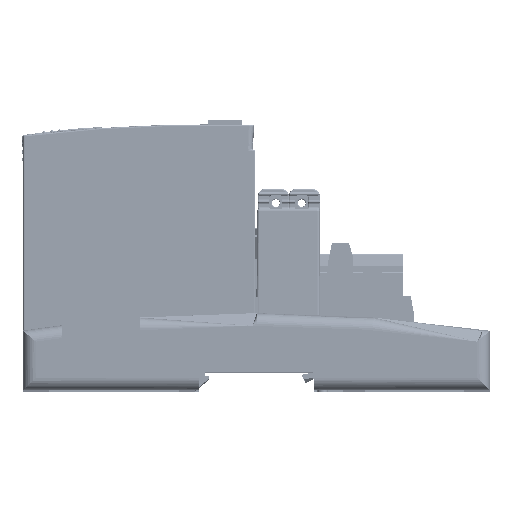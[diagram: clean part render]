
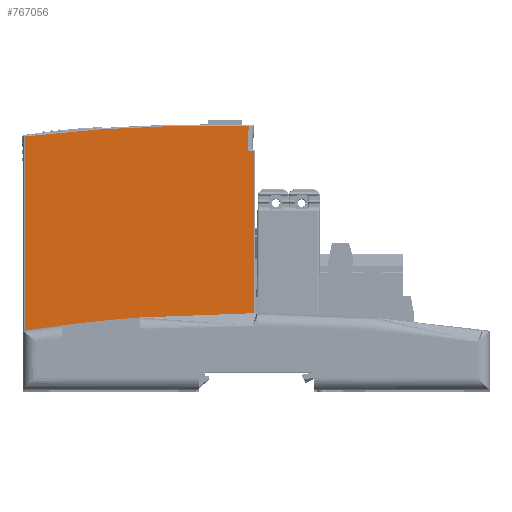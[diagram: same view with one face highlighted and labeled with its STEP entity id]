
A CAD part, top view. The second image highlights one B-rep face of the part: STEP entity #767056.
In plain terms, the highlighted planar face has unit normal (0, 0, 1) by its records, which use the part's own axes.
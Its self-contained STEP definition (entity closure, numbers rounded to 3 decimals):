
#131393=DIRECTION('',(0.,1.,0.));
#131394=VECTOR('',#131393,2.4);
#131395=CARTESIAN_POINT('',(152.7,18.7,-0.2));
#131396=LINE('',#131395,#131394);
#138217=DIRECTION('',(1.,0.,0.));
#138218=VECTOR('',#138217,3.);
#138219=CARTESIAN_POINT('',(0.6,23.1,-0.203));
#138220=LINE('',#138219,#138218);
#138283=DIRECTION('',(0.,-1.,0.));
#138284=VECTOR('',#138283,74.756);
#138285=CARTESIAN_POINT('',(0.6,97.856,-0.204));
#138286=LINE('',#138285,#138284);
#138526=CARTESIAN_POINT('',(86.601,92.3,
-0.204));
#138553=DIRECTION('',(1.,0.,-0.001));
#138554=VECTOR('',#138553,3.);
#138555=CARTESIAN_POINT('',(30.6,21.1,-0.2));
#138556=LINE('',#138555,#138554);
#138557=DIRECTION('',(-1.,0.,0.));
#138558=VECTOR('',#138557,25.);
#138559=CARTESIAN_POINT('',(28.6,21.1,-0.203));
#138560=LINE('',#138559,#138558);
#138561=DIRECTION('',(0.,1.,0.));
#138562=VECTOR('',#138561,2.);
#138563=CARTESIAN_POINT('',(3.6,21.1,-0.203));
#138564=LINE('',#138563,#138562);
#138565=CARTESIAN_POINT('',(71.564,-497.429,-0.205));
#138566=DIRECTION('',(0.,0.,-1.));
#138567=DIRECTION('',(-0.118,0.993,0.));
#138568=AXIS2_PLACEMENT_3D('',#138565,#138566,#138567);
#138570=CARTESIAN_POINT('',(178.6,92.8,-0.205));
#138571=DIRECTION('',(0.,0.,1.));
#138572=DIRECTION('',(-0.995,0.099,0.));
#138573=AXIS2_PLACEMENT_3D('',#138570,#138571,#138572);
#138575=DIRECTION('',(1.,0.,0.));
#138576=VECTOR('',#138575,2.499);
#138577=CARTESIAN_POINT('',(86.601,92.3,
-0.204));
#138578=LINE('',#138577,#138576);
#138579=DIRECTION('',(0.,-1.,0.));
#138580=VECTOR('',#138579,71.2);
#138581=CARTESIAN_POINT('',(89.1,92.3,-0.204));
#138582=LINE('',#138581,#138580);
#138583=DIRECTION('',(1.,0.,0.));
#138584=VECTOR('',#138583,63.6);
#138585=CARTESIAN_POINT('',(89.1,21.1,-0.203));
#138586=LINE('',#138585,#138584);
#138587=DIRECTION('',(-1.,0.,0.));
#138588=VECTOR('',#138587,122.1);
#138589=CARTESIAN_POINT('',(152.7,18.7,-0.2));
#138590=LINE('',#138589,#138588);
#138591=DIRECTION('',(0.,1.,0.));
#138592=VECTOR('',#138591,2.4);
#138593=CARTESIAN_POINT('',(30.6,18.7,-0.2));
#138594=LINE('',#138593,#138592);
#138599=DIRECTION('',(0.,-1.,0.001));
#138600=VECTOR('',#138599,2.);
#138601=CARTESIAN_POINT('',(33.6,23.1,-0.203));
#138602=LINE('',#138601,#138600);
#138603=DIRECTION('',(1.,0.,0.));
#138604=VECTOR('',#138603,5.);
#138605=CARTESIAN_POINT('',(28.6,23.1,-0.203));
#138606=LINE('',#138605,#138604);
#138623=DIRECTION('',(0.,1.,0.));
#138624=VECTOR('',#138623,2.);
#138625=CARTESIAN_POINT('',(28.6,21.1,-0.203));
#138626=LINE('',#138625,#138624);
#454432=CARTESIAN_POINT('',(30.6,18.7,-0.2));
#454433=VERTEX_POINT('',#454432);
#454502=CARTESIAN_POINT('',(30.6,21.1,-0.2));
#454504=VERTEX_POINT('',#454502);
#454530=CARTESIAN_POINT('',(152.7,18.7,-0.2));
#454531=VERTEX_POINT('',#454530);
#454532=CARTESIAN_POINT('',(152.7,21.1,-0.2));
#454533=VERTEX_POINT('',#454532);
#456241=CARTESIAN_POINT('',(3.6,21.1,-0.203));
#456243=VERTEX_POINT('',#456241);
#456246=CARTESIAN_POINT('',(28.6,21.1,-0.203));
#456248=VERTEX_POINT('',#456246);
#456251=CARTESIAN_POINT('',(3.6,23.1,-0.203));
#456253=VERTEX_POINT('',#456251);
#457536=CARTESIAN_POINT('',(0.6,97.856,-0.205));
#457537=VERTEX_POINT('',#457536);
#457538=CARTESIAN_POINT('',(87.048,101.871,-0.205));
#457539=VERTEX_POINT('',#457538);
#457544=VERTEX_POINT('',#138526);
#457545=CARTESIAN_POINT('',(89.1,92.3,-0.205));
#457546=VERTEX_POINT('',#457545);
#457547=CARTESIAN_POINT('',(28.6,23.1,-0.203));
#457548=CARTESIAN_POINT('',(33.6,23.1,-0.203));
#457549=VERTEX_POINT('',#457547);
#457550=VERTEX_POINT('',#457548);
#457551=CARTESIAN_POINT('',(0.6,23.1,-0.203));
#457552=VERTEX_POINT('',#457551);
#555051=CARTESIAN_POINT('',(89.1,21.1,-0.205));
#555052=VERTEX_POINT('',#555051);
#555069=CARTESIAN_POINT('',(33.6,21.1,-0.202));
#555070=VERTEX_POINT('',#555069);
#767024=CARTESIAN_POINT('',(91.65,19.9,-0.2));
#767025=DIRECTION('',(0.,0.,1.));
#767026=DIRECTION('',(1.,0.,0.));
#767027=AXIS2_PLACEMENT_3D('',#767024,#767025,#767026);
#767028=PLANE('',#767027);
#767029=ORIENTED_EDGE('',*,*,#757360,.T.);
#767031=ORIENTED_EDGE('',*,*,#767030,.F.);
#767033=ORIENTED_EDGE('',*,*,#767032,.F.);
#767035=ORIENTED_EDGE('',*,*,#767034,.F.);
#767037=ORIENTED_EDGE('',*,*,#767036,.T.);
#767039=ORIENTED_EDGE('',*,*,#767038,.T.);
#767040=ORIENTED_EDGE('',*,*,#766188,.F.);
#767041=ORIENTED_EDGE('',*,*,#766226,.F.);
#767043=ORIENTED_EDGE('',*,*,#767042,.T.);
#767044=ORIENTED_EDGE('',*,*,#767015,.T.);
#767046=ORIENTED_EDGE('',*,*,#767045,.T.);
#767048=ORIENTED_EDGE('',*,*,#767047,.T.);
#767049=ORIENTED_EDGE('',*,*,#757346,.T.);
#767050=ORIENTED_EDGE('',*,*,#757332,.F.);
#767051=ORIENTED_EDGE('',*,*,#757683,.T.);
#767053=ORIENTED_EDGE('',*,*,#767052,.T.);
#767054=EDGE_LOOP('',(#767029,#767031,#767033,#767035,#767037,#767039,#767040,
#767041,#767043,#767044,#767046,#767048,#767049,#767050,#767051,#767053));
#767055=FACE_OUTER_BOUND('',#767054,.F.);
#138569=CIRCLE('',#138568,599.5);
#138574=CIRCLE('',#138573,92.);
#757332=EDGE_CURVE('',#454531,#454533,#131396,.T.);
#757346=EDGE_CURVE('',#555052,#454533,#138586,.T.);
#757360=EDGE_CURVE('',#454504,#555070,#138556,.T.);
#757683=EDGE_CURVE('',#454531,#454433,#138590,.T.);
#766188=EDGE_CURVE('',#457552,#456253,#138220,.T.);
#766226=EDGE_CURVE('',#457537,#457552,#138286,.T.);
#767015=EDGE_CURVE('',#457539,#457544,#138574,.T.);
#767030=EDGE_CURVE('',#457550,#555070,#138602,.T.);
#767032=EDGE_CURVE('',#457549,#457550,#138606,.T.);
#767034=EDGE_CURVE('',#456248,#457549,#138626,.T.);
#767036=EDGE_CURVE('',#456248,#456243,#138560,.T.);
#767038=EDGE_CURVE('',#456243,#456253,#138564,.T.);
#767042=EDGE_CURVE('',#457537,#457539,#138569,.T.);
#767045=EDGE_CURVE('',#457544,#457546,#138578,.T.);
#767047=EDGE_CURVE('',#457546,#555052,#138582,.T.);
#767052=EDGE_CURVE('',#454433,#454504,#138594,.T.);
#767056=ADVANCED_FACE('',(#767055),#767028,.T.);
